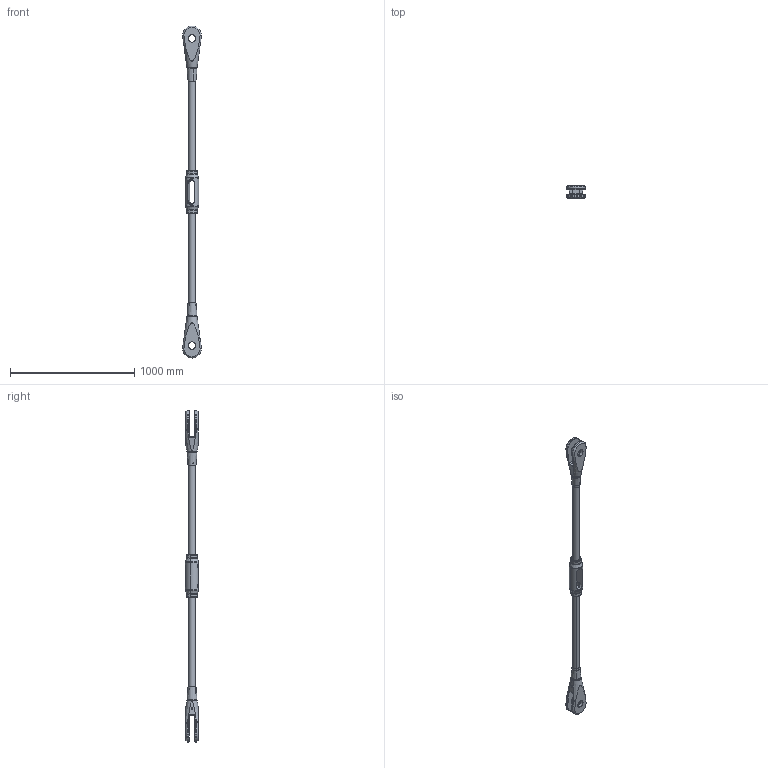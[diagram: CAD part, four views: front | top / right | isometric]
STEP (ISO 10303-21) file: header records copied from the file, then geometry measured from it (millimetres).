
FILE_DESCRIPTION (( 'STEP AP214' ), '1' );
FILE_NAME ('M56 G+AB+K.STEP', '2018-01-18T13:59:07', ( 'install' ), ( 'Hewlett-Packard Company' ), 'SwSTEP 2.0', 'SolidWorks 2017', '' );
FILE_SCHEMA (( 'AUTOMOTIVE_DESIGN' ));
Length unit declared in the file: millimetre
Products named in the file (5): Zugstab_M56; Kreuzmuffe_M56; Abdeckhülse_generisch_M56; Gabelkopf Kunde_M56; M56 G+AB+K
Assembly tree (7 placements, depth 2):
  M56 G+AB+K
    Gabelkopf Kunde_M56  x2
    Abdeckhülse_generisch_M56  x2
    Kreuzmuffe_M56
    Zugstab_M56  x2
Bounding box: 150.92 x 109.99 x 2670 mm (x, y, z)
Volume: 10399271.1 mm3; surface area: 1025385.2 mm2
Topology: 7 solids, 7 shells, 273 faces, 712 edges, 441 vertices
Faces by surface type: cylinder 156, plane 46, cone 30, torus 26, bspline 15
Entity records: 15548 total; most frequent: CARTESIAN_POINT 11065, ORIENTED_EDGE 1018, DIRECTION 798, EDGE_CURVE 509, AXIS2_PLACEMENT_3D 320, VERTEX_POINT 317, EDGE_LOOP 208, FACE_OUTER_BOUND 191
